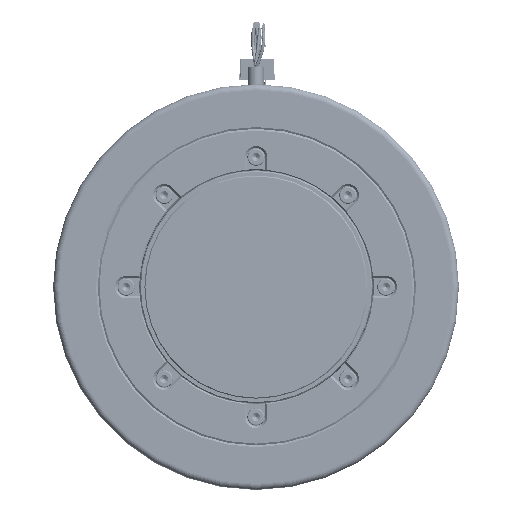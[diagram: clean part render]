
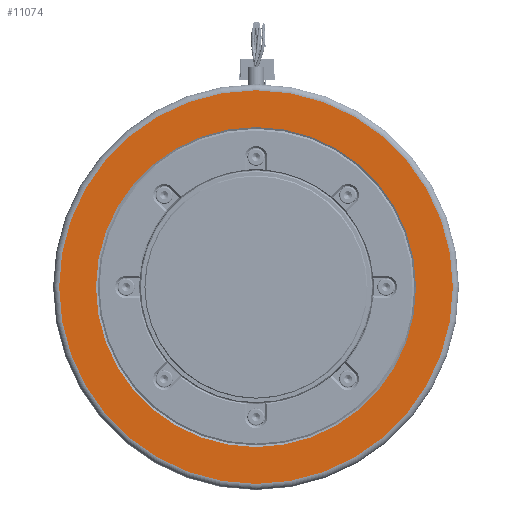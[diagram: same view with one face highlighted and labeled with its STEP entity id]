
A CAD part, left-side view. The second image highlights one B-rep face of the part: STEP entity #11074.
In plain terms, the highlighted planar face has unit normal (-1, 0, 0) as drawn and (1, 0, 0) by its records, which use the part's own axes.
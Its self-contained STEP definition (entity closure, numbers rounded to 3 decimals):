
#8270=CARTESIAN_POINT('',(55.,0.,0.));
#8271=DIRECTION('',(1.,0.,0.));
#8272=DIRECTION('',(0.,0.,-1.));
#8273=AXIS2_PLACEMENT_3D('',#8270,#8271,#8272);
#8275=CARTESIAN_POINT('',(55.,0.,0.));
#8276=DIRECTION('',(1.,0.,0.));
#8277=DIRECTION('',(0.,0.,1.));
#8278=AXIS2_PLACEMENT_3D('',#8275,#8276,#8277);
#8280=CARTESIAN_POINT('',(55.,0.,0.));
#8281=DIRECTION('',(-1.,0.,0.));
#8282=DIRECTION('',(0.,0.,-1.));
#8283=AXIS2_PLACEMENT_3D('',#8280,#8281,#8282);
#8285=CARTESIAN_POINT('',(55.,0.,0.));
#8286=DIRECTION('',(-1.,0.,0.));
#8287=DIRECTION('',(0.,0.,1.));
#8288=AXIS2_PLACEMENT_3D('',#8285,#8286,#8287);
#10226=CARTESIAN_POINT('',(55.,0.,-78.866));
#10227=CARTESIAN_POINT('',(55.,0.,78.866));
#10228=VERTEX_POINT('',#10226);
#10229=VERTEX_POINT('',#10227);
#10448=CARTESIAN_POINT('',(55.,0.,97.));
#10449=VERTEX_POINT('',#10448);
#10645=CARTESIAN_POINT('',(55.,0.,-97.));
#10646=VERTEX_POINT('',#10645);
#11059=CARTESIAN_POINT('',(55.,97.,0.));
#11060=DIRECTION('',(-1.,0.,0.));
#11061=DIRECTION('',(0.,0.,1.));
#11062=AXIS2_PLACEMENT_3D('',#11059,#11060,#11061);
#11063=PLANE('',#11062);
#11065=ORIENTED_EDGE('',*,*,#11064,.F.);
#11067=ORIENTED_EDGE('',*,*,#11066,.F.);
#11068=EDGE_LOOP('',(#11065,#11067));
#11069=FACE_OUTER_BOUND('',#11068,.F.);
#11070=ORIENTED_EDGE('',*,*,#11039,.F.);
#11071=ORIENTED_EDGE('',*,*,#11052,.F.);
#11072=EDGE_LOOP('',(#11070,#11071));
#11073=FACE_BOUND('',#11072,.F.);
#11074=ADVANCED_FACE('',(#11069,#11073),#11063,.F.);
#8274=CIRCLE('',#8273,97.);
#8279=CIRCLE('',#8278,97.);
#8284=CIRCLE('',#8283,78.866);
#8289=CIRCLE('',#8288,78.866);
#11039=EDGE_CURVE('',#10228,#10229,#8284,.T.);
#11052=EDGE_CURVE('',#10229,#10228,#8289,.T.);
#11064=EDGE_CURVE('',#10646,#10449,#8274,.T.);
#11066=EDGE_CURVE('',#10449,#10646,#8279,.T.);
